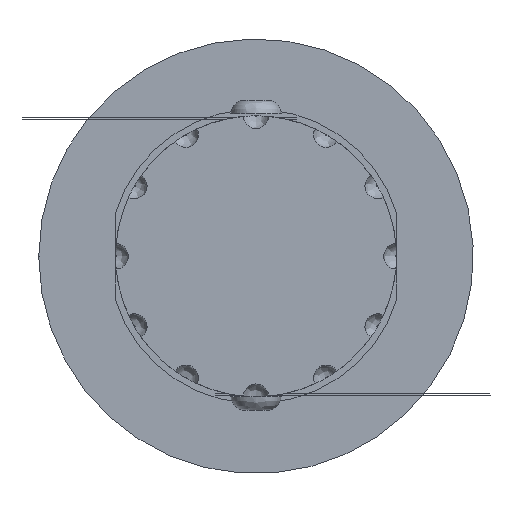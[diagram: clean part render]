
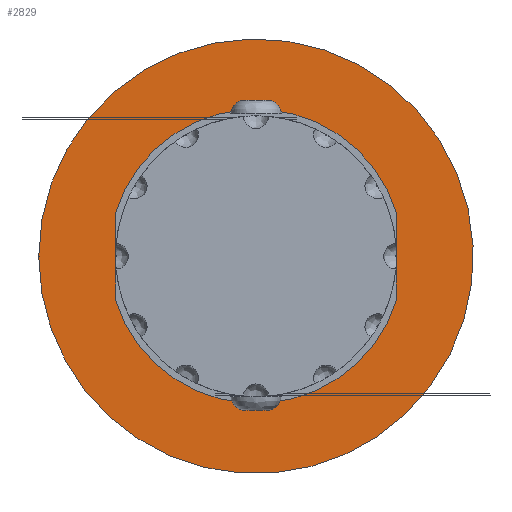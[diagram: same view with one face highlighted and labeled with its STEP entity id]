
A CAD part, front view. The second image highlights one B-rep face of the part: STEP entity #2829.
In plain terms, the highlighted planar face has unit normal (0, -1, 0).
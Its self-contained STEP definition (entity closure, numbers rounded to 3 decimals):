
#2558=CARTESIAN_POINT('',(0.,47.5,0.));
#2559=DIRECTION('',(0.,1.,0.));
#2560=DIRECTION('',(0.555,0.,-0.832));
#2561=AXIS2_PLACEMENT_3D('',#2558,#2559,#2560);
#2622=CARTESIAN_POINT('',(0.,47.5,0.));
#2623=DIRECTION('',(0.,-1.,0.));
#2624=DIRECTION('',(0.555,0.,-0.832));
#2625=AXIS2_PLACEMENT_3D('',#2622,#2623,#2624);
#2681=CARTESIAN_POINT('',(18.026,47.5,-27.043));
#2781=CARTESIAN_POINT('',(-32.5,47.5,0.));
#2782=VERTEX_POINT('',#2781);
#2796=VERTEX_POINT('',#2681);
#2818=CARTESIAN_POINT('',(0.,47.5,0.));
#2819=DIRECTION('',(0.,1.,0.));
#2820=DIRECTION('',(0.,0.,-1.));
#2821=AXIS2_PLACEMENT_3D('',#2818,#2819,#2820);
#2822=PLANE('',#2821);
#2824=ORIENTED_EDGE('',*,*,#2823,.T.);
#2826=ORIENTED_EDGE('',*,*,#2825,.F.);
#2827=EDGE_LOOP('',(#2824,#2826));
#2828=FACE_OUTER_BOUND('',#2827,.F.);
#2829=ADVANCED_FACE('',(#2828),#2822,.F.);
#2562=CIRCLE('',#2561,32.5);
#2626=CIRCLE('',#2625,32.5);
#2823=EDGE_CURVE('',#2796,#2782,#2562,.T.);
#2825=EDGE_CURVE('',#2796,#2782,#2626,.T.);
